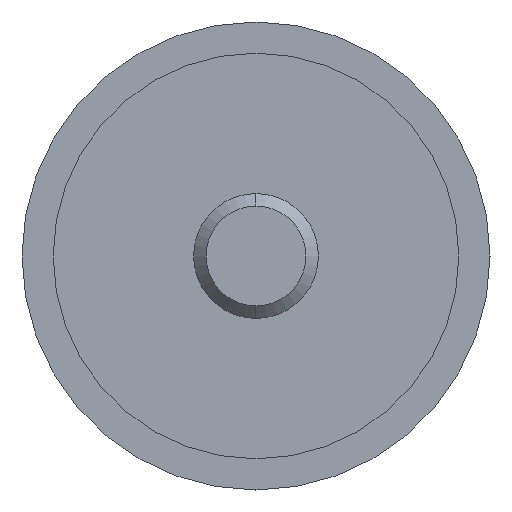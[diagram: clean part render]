
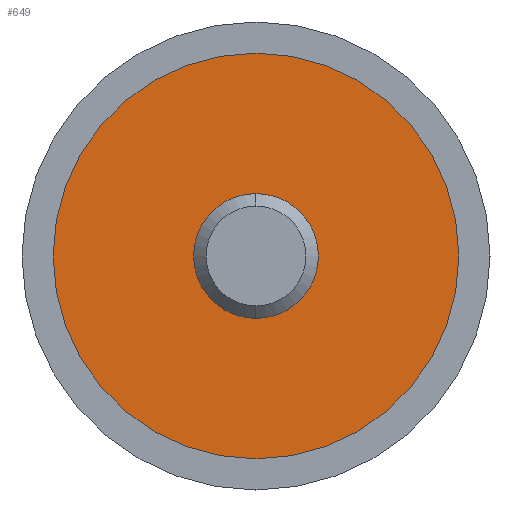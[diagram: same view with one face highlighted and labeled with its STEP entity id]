
A CAD part, left-side view. The second image highlights one B-rep face of the part: STEP entity #649.
In plain terms, the highlighted planar face has unit normal (-1, 0, 0).
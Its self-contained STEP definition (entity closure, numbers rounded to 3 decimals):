
#23 = VERTEX_POINT ( 'NONE', #43 ) ;
#28 = AXIS2_PLACEMENT_3D ( 'NONE', #381, #336, #118 ) ;
#43 = CARTESIAN_POINT ( 'NONE',  ( -14.99, 0., -13. ) ) ;
#55 = DIRECTION ( 'NONE',  ( 0., 0., -1. ) ) ;
#76 = DIRECTION ( 'NONE',  ( 0., 0., -1. ) ) ;
#84 = FACE_OUTER_BOUND ( 'NONE', #212, .T. ) ;
#115 = CARTESIAN_POINT ( 'NONE',  ( -14.99, 0., 4. ) ) ;
#117 = EDGE_CURVE ( 'NONE', #371, #23, #594, .T. ) ;
#118 = DIRECTION ( 'NONE',  ( 0., 0., 1. ) ) ;
#120 = CIRCLE ( 'NONE', #189, 4. ) ;
#126 = CARTESIAN_POINT ( 'NONE',  ( -14.99, 0., 0. ) ) ;
#130 = EDGE_CURVE ( 'NONE', #416, #136, #120, .T. ) ;
#134 = ORIENTED_EDGE ( 'NONE', *, *, #130, .F. ) ;
#136 = VERTEX_POINT ( 'NONE', #115 ) ;
#146 = EDGE_LOOP ( 'NONE', ( #612, #134 ) ) ;
#157 = EDGE_CURVE ( 'NONE', #136, #416, #291, .T. ) ;
#172 = DIRECTION ( 'NONE',  ( -1., 0., 0. ) ) ;
#189 = AXIS2_PLACEMENT_3D ( 'NONE', #126, #548, #76 ) ;
#212 = EDGE_LOOP ( 'NONE', ( #670, #544 ) ) ;
#263 = CARTESIAN_POINT ( 'NONE',  ( -14.99, 13., 0. ) ) ;
#266 = CARTESIAN_POINT ( 'NONE',  ( -14.99, 0., 0. ) ) ;
#274 = EDGE_CURVE ( 'NONE', #23, #371, #608, .T. ) ;
#290 = FACE_BOUND ( 'NONE', #146, .T. ) ;
#291 = CIRCLE ( 'NONE', #397, 4. ) ;
#305 = AXIS2_PLACEMENT_3D ( 'NONE', #323, #588, #320 ) ;
#320 = DIRECTION ( 'NONE',  ( 0., 0., 1. ) ) ;
#323 = CARTESIAN_POINT ( 'NONE',  ( -14.99, 0., 0. ) ) ;
#336 = DIRECTION ( 'NONE',  ( -1., 0., 0. ) ) ;
#371 = VERTEX_POINT ( 'NONE', #547 ) ;
#381 = CARTESIAN_POINT ( 'NONE',  ( -14.99, 0., 0. ) ) ;
#389 = AXIS2_PLACEMENT_3D ( 'NONE', #263, #492, #55 ) ;
#397 = AXIS2_PLACEMENT_3D ( 'NONE', #266, #172, #447 ) ;
#416 = VERTEX_POINT ( 'NONE', #659 ) ;
#447 = DIRECTION ( 'NONE',  ( 0., 0., -1. ) ) ;
#492 = DIRECTION ( 'NONE',  ( 1., 0., 0. ) ) ;
#537 = PLANE ( 'NONE',  #389 ) ;
#544 = ORIENTED_EDGE ( 'NONE', *, *, #274, .T. ) ;
#547 = CARTESIAN_POINT ( 'NONE',  ( -14.99, 0., 13. ) ) ;
#548 = DIRECTION ( 'NONE',  ( -1., 0., 0. ) ) ;
#588 = DIRECTION ( 'NONE',  ( -1., 0., 0. ) ) ;
#594 = CIRCLE ( 'NONE', #28, 13. ) ;
#608 = CIRCLE ( 'NONE', #305, 13. ) ;
#612 = ORIENTED_EDGE ( 'NONE', *, *, #157, .F. ) ;
#649 = ADVANCED_FACE ( 'NONE', ( #84, #290 ), #537, .F. ) ;
#659 = CARTESIAN_POINT ( 'NONE',  ( -14.99, 0., -4. ) ) ;
#670 = ORIENTED_EDGE ( 'NONE', *, *, #117, .T. ) ;
